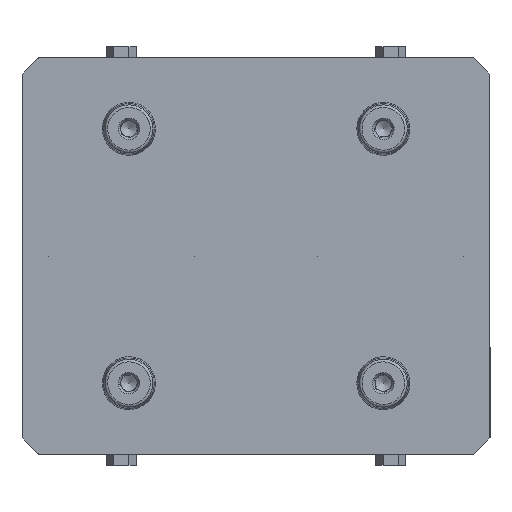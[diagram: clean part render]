
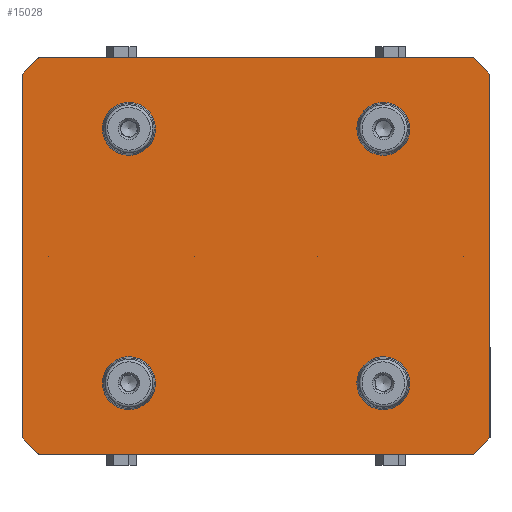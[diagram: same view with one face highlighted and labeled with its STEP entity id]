
A CAD part, front view. The second image highlights one B-rep face of the part: STEP entity #15028.
In plain terms, the highlighted planar face has unit normal (0, -1, 0).
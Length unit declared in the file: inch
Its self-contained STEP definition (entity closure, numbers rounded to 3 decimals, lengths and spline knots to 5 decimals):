
#201 = CARTESIAN_POINT ( 'NONE',  ( 3.22441, 0., -2.95276 ) ) ;
#448 = VECTOR ( 'NONE', #20092, 39.37008 ) ;
#455 = DIRECTION ( 'NONE',  ( 0., 0., -1. ) ) ;
#462 = CARTESIAN_POINT ( 'NONE',  ( -3.22441, 0., 2.95276 ) ) ;
#1783 = ORIENTED_EDGE ( 'NONE', *, *, #11993, .T. ) ;
#1835 = ORIENTED_EDGE ( 'NONE', *, *, #9036, .F. ) ;
#1977 = CARTESIAN_POINT ( 'NONE',  ( 1.88976, 0., 1.88976 ) ) ;
#2062 = EDGE_CURVE ( 'NONE', #19685, #16824, #12130, .T. ) ;
#2196 = VERTEX_POINT ( 'NONE', #16603 ) ;
#3284 = CARTESIAN_POINT ( 'NONE',  ( -1.88976, 0., -1.88976 ) ) ;
#3422 = ORIENTED_EDGE ( 'NONE', *, *, #4176, .F. ) ;
#3608 = LINE ( 'NONE', #18385, #4462 ) ;
#3846 = CIRCLE ( 'NONE', #4190, 0.31535 ) ;
#3897 = VECTOR ( 'NONE', #18744, 39.37008 ) ;
#4028 = EDGE_CURVE ( 'NONE', #20975, #20975, #6891, .T. ) ;
#4040 = EDGE_CURVE ( 'NONE', #18391, #13700, #3608, .T. ) ;
#4176 = EDGE_CURVE ( 'NONE', #13364, #2196, #9570, .T. ) ;
#4190 = AXIS2_PLACEMENT_3D ( 'NONE', #17598, #9327, #10773 ) ;
#4462 = VECTOR ( 'NONE', #5474, 39.37008 ) ;
#4521 = DIRECTION ( 'NONE',  ( 0., 1., 0. ) ) ;
#4554 = VECTOR ( 'NONE', #7865, 39.37008 ) ;
#4687 = VERTEX_POINT ( 'NONE', #11691 ) ;
#4697 = DIRECTION ( 'NONE',  ( 0., -1., 0. ) ) ;
#4743 = PLANE ( 'NONE',  #6053 ) ;
#4905 = ORIENTED_EDGE ( 'NONE', *, *, #5763, .T. ) ;
#4966 = AXIS2_PLACEMENT_3D ( 'NONE', #1977, #20120, #15231 ) ;
#4990 = EDGE_CURVE ( 'NONE', #19685, #10575, #16724, .T. ) ;
#5474 = DIRECTION ( 'NONE',  ( 1., 0., 0. ) ) ;
#5680 = EDGE_LOOP ( 'NONE', ( #15615 ) ) ;
#5763 = EDGE_CURVE ( 'NONE', #4687, #13700, #9629, .T. ) ;
#6053 = AXIS2_PLACEMENT_3D ( 'NONE', #9646, #4521, #7995 ) ;
#6321 = CIRCLE ( 'NONE', #18863, 0.31535 ) ;
#6493 = FACE_BOUND ( 'NONE', #16435, .T. ) ;
#6891 = CIRCLE ( 'NONE', #19062, 0.31535 ) ;
#7347 = DIRECTION ( 'NONE',  ( 0.707, 0., -0.707 ) ) ;
#7821 = DIRECTION ( 'NONE',  ( -0.707, 0., -0.707 ) ) ;
#7865 = DIRECTION ( 'NONE',  ( -0.707, 0., 0.707 ) ) ;
#7995 = DIRECTION ( 'NONE',  ( 0., 0., 1. ) ) ;
#8469 = ORIENTED_EDGE ( 'NONE', *, *, #20909, .F. ) ;
#8629 = VECTOR ( 'NONE', #7821, 39.37008 ) ;
#8697 = DIRECTION ( 'NONE',  ( 0., -1., 0. ) ) ;
#8828 = ORIENTED_EDGE ( 'NONE', *, *, #2062, .F. ) ;
#9036 = EDGE_CURVE ( 'NONE', #17045, #17045, #14354, .T. ) ;
#9327 = DIRECTION ( 'NONE',  ( 0., -1., 0. ) ) ;
#9396 = CARTESIAN_POINT ( 'NONE',  ( -3.47441, 0., -2.70276 ) ) ;
#9570 = LINE ( 'NONE', #16282, #12836 ) ;
#9629 = LINE ( 'NONE', #16241, #4554 ) ;
#9646 = CARTESIAN_POINT ( 'NONE',  ( 0., 0., 0. ) ) ;
#10247 = CARTESIAN_POINT ( 'NONE',  ( 3.22441, 0., -2.95276 ) ) ;
#10381 = EDGE_LOOP ( 'NONE', ( #3422, #1783, #8828, #14114, #15289, #4905, #20076, #18584 ) ) ;
#10575 = VERTEX_POINT ( 'NONE', #11338 ) ;
#10773 = DIRECTION ( 'NONE',  ( 0., 0., -1. ) ) ;
#10947 = VERTEX_POINT ( 'NONE', #14104 ) ;
#11338 = CARTESIAN_POINT ( 'NONE',  ( 3.47441, 0., -2.70276 ) ) ;
#11389 = FACE_BOUND ( 'NONE', #15855, .T. ) ;
#11691 = CARTESIAN_POINT ( 'NONE',  ( 3.47441, 0., 2.70276 ) ) ;
#11820 = EDGE_CURVE ( 'NONE', #4687, #10575, #11973, .T. ) ;
#11846 = DIRECTION ( 'NONE',  ( 0., 0., -1. ) ) ;
#11973 = LINE ( 'NONE', #14979, #16341 ) ;
#11993 = EDGE_CURVE ( 'NONE', #13364, #16824, #15605, .T. ) ;
#12130 = LINE ( 'NONE', #17115, #3897 ) ;
#12661 = LINE ( 'NONE', #17614, #8629 ) ;
#12750 = CARTESIAN_POINT ( 'NONE',  ( 3.22441, 0., 2.95276 ) ) ;
#12836 = VECTOR ( 'NONE', #14553, 39.37008 ) ;
#12909 = VECTOR ( 'NONE', #7347, 39.37008 ) ;
#12945 = FACE_OUTER_BOUND ( 'NONE', #10381, .T. ) ;
#13053 = FACE_BOUND ( 'NONE', #5680, .T. ) ;
#13202 = CARTESIAN_POINT ( 'NONE',  ( 1.88976, 0., -2.20511 ) ) ;
#13322 = DIRECTION ( 'NONE',  ( 0., 0., -1. ) ) ;
#13364 = VERTEX_POINT ( 'NONE', #9396 ) ;
#13485 = CARTESIAN_POINT ( 'NONE',  ( 1.88976, 0., 1.57441 ) ) ;
#13639 = CARTESIAN_POINT ( 'NONE',  ( -1.88976, 0., 1.88976 ) ) ;
#13695 = ORIENTED_EDGE ( 'NONE', *, *, #4028, .F. ) ;
#13700 = VERTEX_POINT ( 'NONE', #12750 ) ;
#14104 = CARTESIAN_POINT ( 'NONE',  ( -1.88976, 0., -2.20511 ) ) ;
#14114 = ORIENTED_EDGE ( 'NONE', *, *, #4990, .T. ) ;
#14354 = CIRCLE ( 'NONE', #4966, 0.31535 ) ;
#14535 = FACE_BOUND ( 'NONE', #19544, .T. ) ;
#14553 = DIRECTION ( 'NONE',  ( 0., 0., 1. ) ) ;
#14830 = CARTESIAN_POINT ( 'NONE',  ( -3.22441, 0., -2.95276 ) ) ;
#14979 = CARTESIAN_POINT ( 'NONE',  ( 3.47441, 0., 2.95276 ) ) ;
#15028 = ADVANCED_FACE ( 'NONE', ( #14535, #13053, #11389, #6493, #12945 ), #4743, .F. ) ;
#15231 = DIRECTION ( 'NONE',  ( 0., 0., -1. ) ) ;
#15289 = ORIENTED_EDGE ( 'NONE', *, *, #11820, .F. ) ;
#15517 = CARTESIAN_POINT ( 'NONE',  ( -3.47441, 0., -2.70276 ) ) ;
#15605 = LINE ( 'NONE', #15517, #12909 ) ;
#15615 = ORIENTED_EDGE ( 'NONE', *, *, #17868, .F. ) ;
#15855 = EDGE_LOOP ( 'NONE', ( #8469 ) ) ;
#16241 = CARTESIAN_POINT ( 'NONE',  ( 3.47441, 0., 2.70276 ) ) ;
#16282 = CARTESIAN_POINT ( 'NONE',  ( -3.47441, 0., 2.95276 ) ) ;
#16341 = VECTOR ( 'NONE', #11846, 39.37008 ) ;
#16435 = EDGE_LOOP ( 'NONE', ( #1835 ) ) ;
#16603 = CARTESIAN_POINT ( 'NONE',  ( -3.47441, 0., 2.70276 ) ) ;
#16724 = LINE ( 'NONE', #201, #448 ) ;
#16824 = VERTEX_POINT ( 'NONE', #14830 ) ;
#17045 = VERTEX_POINT ( 'NONE', #13485 ) ;
#17115 = CARTESIAN_POINT ( 'NONE',  ( 3.47441, 0., -2.95276 ) ) ;
#17598 = CARTESIAN_POINT ( 'NONE',  ( 1.88976, 0., -1.88976 ) ) ;
#17614 = CARTESIAN_POINT ( 'NONE',  ( -3.22441, 0., 2.95276 ) ) ;
#17868 = EDGE_CURVE ( 'NONE', #10947, #10947, #6321, .T. ) ;
#18385 = CARTESIAN_POINT ( 'NONE',  ( 3.47441, 0., 2.95276 ) ) ;
#18391 = VERTEX_POINT ( 'NONE', #462 ) ;
#18584 = ORIENTED_EDGE ( 'NONE', *, *, #19404, .T. ) ;
#18744 = DIRECTION ( 'NONE',  ( -1., 0., 0. ) ) ;
#18863 = AXIS2_PLACEMENT_3D ( 'NONE', #3284, #4697, #13322 ) ;
#19028 = CARTESIAN_POINT ( 'NONE',  ( -1.88976, 0., 1.57441 ) ) ;
#19062 = AXIS2_PLACEMENT_3D ( 'NONE', #13639, #8697, #455 ) ;
#19404 = EDGE_CURVE ( 'NONE', #18391, #2196, #12661, .T. ) ;
#19544 = EDGE_LOOP ( 'NONE', ( #13695 ) ) ;
#19685 = VERTEX_POINT ( 'NONE', #10247 ) ;
#20076 = ORIENTED_EDGE ( 'NONE', *, *, #4040, .F. ) ;
#20092 = DIRECTION ( 'NONE',  ( 0.707, 0., 0.707 ) ) ;
#20120 = DIRECTION ( 'NONE',  ( 0., -1., 0. ) ) ;
#20909 = EDGE_CURVE ( 'NONE', #21435, #21435, #3846, .T. ) ;
#20975 = VERTEX_POINT ( 'NONE', #19028 ) ;
#21435 = VERTEX_POINT ( 'NONE', #13202 ) ;
